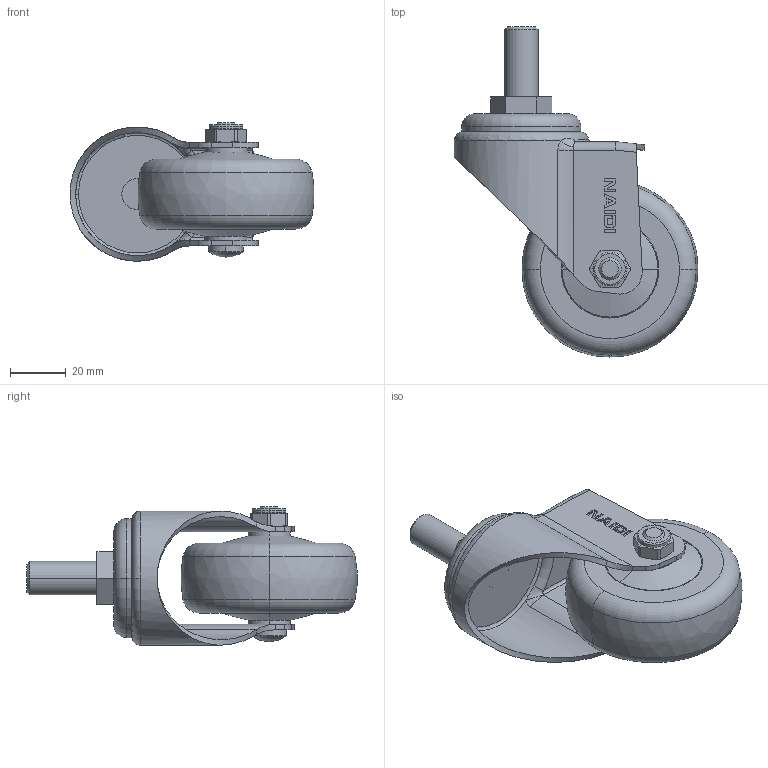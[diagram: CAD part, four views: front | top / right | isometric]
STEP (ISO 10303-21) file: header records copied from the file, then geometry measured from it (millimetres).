
FILE_DESCRIPTION((''),'2;1');
FILE_NAME('C341325_ASM','2024-09-24T',('Lenovo'),(''),'PRO/ENGINEER BY PARAMETRIC TECHNOLOGY CORPORATION, 2010280','PRO/ENGINEER BY PARAMETRIC TECHNOLOGY CORPORATION, 2010280','');
FILE_SCHEMA(('CONFIG_CONTROL_DESIGN'));
Length unit declared in the file: millimetre
Products named in the file (8): C34125-311; 360-23-M12X25; C3410-211; C3425-967; 3725-69; 350-33A; 300-34; C341325_ASM
Assembly tree (8 placements, depth 2):
  C341325_ASM
    C34125-311
    360-23-M12X25
    C3410-211
    C3425-967
    3725-69  x2
    350-33A
    300-34
Bounding box: 87.12 x 117.92 x 49.48 mm (x, y, z)
Volume: 93236.5 mm3; surface area: 41573.9 mm2
Topology: 8 solids, 8 shells, 268 faces, 614 edges, 379 vertices
Faces by surface type: plane 112, cylinder 85, torus 32, bspline 21, cone 16, sphere 2
Entity records: 8555 total; most frequent: CARTESIAN_POINT 2861, DIRECTION 1200, ORIENTED_EDGE 1112, EDGE_CURVE 556, AXIS2_PLACEMENT_3D 455, VERTEX_POINT 347, VECTOR 290, LINE 290
